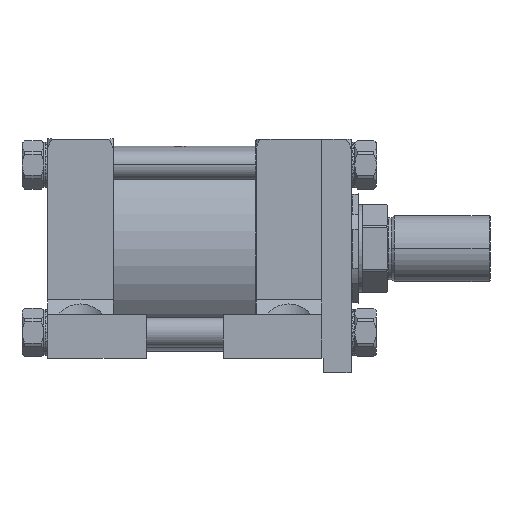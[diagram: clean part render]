
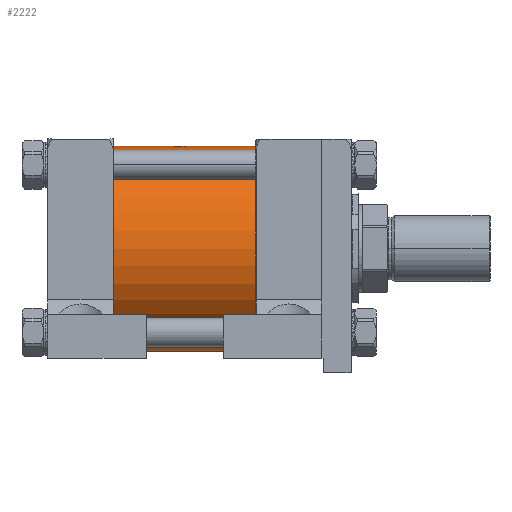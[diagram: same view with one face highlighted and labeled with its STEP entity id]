
A CAD part, front view. The second image highlights one B-rep face of the part: STEP entity #2222.
In plain terms, the highlighted cylindrical face has radius 88.9 mm (diameter 177.8 mm), a partial arc.
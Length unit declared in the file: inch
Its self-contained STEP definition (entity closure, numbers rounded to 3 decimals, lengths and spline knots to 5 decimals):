
#1144 = CARTESIAN_POINT ( 'NONE',  ( -9.625, 0., -3.5 ) ) ;
#2222 = ADVANCED_FACE ( 'NONE', ( #46466 ), #56371, .T. ) ;
#3047 = EDGE_CURVE ( 'NONE', #22165, #49139, #17616, .T. ) ;
#3166 = VECTOR ( 'NONE', #31060, 39.37008 ) ;
#3712 = AXIS2_PLACEMENT_3D ( 'NONE', #24066, #28197, #42881 ) ;
#5118 = AXIS2_PLACEMENT_3D ( 'NONE', #18418, #19359, #42586 ) ;
#5490 = ORIENTED_EDGE ( 'NONE', *, *, #60696, .T. ) ;
#7845 = LINE ( 'NONE', #59845, #3166 ) ;
#8433 = ORIENTED_EDGE ( 'NONE', *, *, #3047, .T. ) ;
#14696 = CARTESIAN_POINT ( 'NONE',  ( -4.25, 0., -3.5 ) ) ;
#15424 = AXIS2_PLACEMENT_3D ( 'NONE', #54215, #49196, #59197 ) ;
#17243 = CARTESIAN_POINT ( 'NONE',  ( -9.625, 0., 3.5 ) ) ;
#17580 = ORIENTED_EDGE ( 'NONE', *, *, #42285, .F. ) ;
#17616 = CIRCLE ( 'NONE', #3712, 3.5 ) ;
#18418 = CARTESIAN_POINT ( 'NONE',  ( -9.625, 0., 0. ) ) ;
#19359 = DIRECTION ( 'NONE',  ( 1., 0., 0. ) ) ;
#22165 = VERTEX_POINT ( 'NONE', #17243 ) ;
#23566 = ORIENTED_EDGE ( 'NONE', *, *, #32918, .F. ) ;
#24066 = CARTESIAN_POINT ( 'NONE',  ( -9.625, 0., 0. ) ) ;
#28197 = DIRECTION ( 'NONE',  ( 1., 0., 0. ) ) ;
#31060 = DIRECTION ( 'NONE',  ( 1., 0., 0. ) ) ;
#31272 = CARTESIAN_POINT ( 'NONE',  ( -4.25, 0., 3.5 ) ) ;
#32918 = EDGE_CURVE ( 'NONE', #49037, #53172, #33508, .T. ) ;
#33104 = CARTESIAN_POINT ( 'NONE',  ( -9.625, 0., -3.5 ) ) ;
#33508 = CIRCLE ( 'NONE', #15424, 3.5 ) ;
#42285 = EDGE_CURVE ( 'NONE', #22165, #49037, #7845, .T. ) ;
#42586 = DIRECTION ( 'NONE',  ( 0., 0., -1. ) ) ;
#42881 = DIRECTION ( 'NONE',  ( 0., 1., 0. ) ) ;
#44388 = VECTOR ( 'NONE', #57186, 39.37008 ) ;
#46466 = FACE_OUTER_BOUND ( 'NONE', #61685, .T. ) ;
#48412 = LINE ( 'NONE', #1144, #44388 ) ;
#49037 = VERTEX_POINT ( 'NONE', #31272 ) ;
#49139 = VERTEX_POINT ( 'NONE', #33104 ) ;
#49196 = DIRECTION ( 'NONE',  ( 1., 0., 0. ) ) ;
#53172 = VERTEX_POINT ( 'NONE', #14696 ) ;
#54215 = CARTESIAN_POINT ( 'NONE',  ( -4.25, 0., 0. ) ) ;
#56371 = CYLINDRICAL_SURFACE ( 'NONE', #5118, 3.5 ) ;
#57186 = DIRECTION ( 'NONE',  ( 1., 0., 0. ) ) ;
#59197 = DIRECTION ( 'NONE',  ( 0., 1., 0. ) ) ;
#59845 = CARTESIAN_POINT ( 'NONE',  ( -9.625, 0., 3.5 ) ) ;
#60696 = EDGE_CURVE ( 'NONE', #49139, #53172, #48412, .T. ) ;
#61685 = EDGE_LOOP ( 'NONE', ( #17580, #8433, #5490, #23566 ) ) ;
